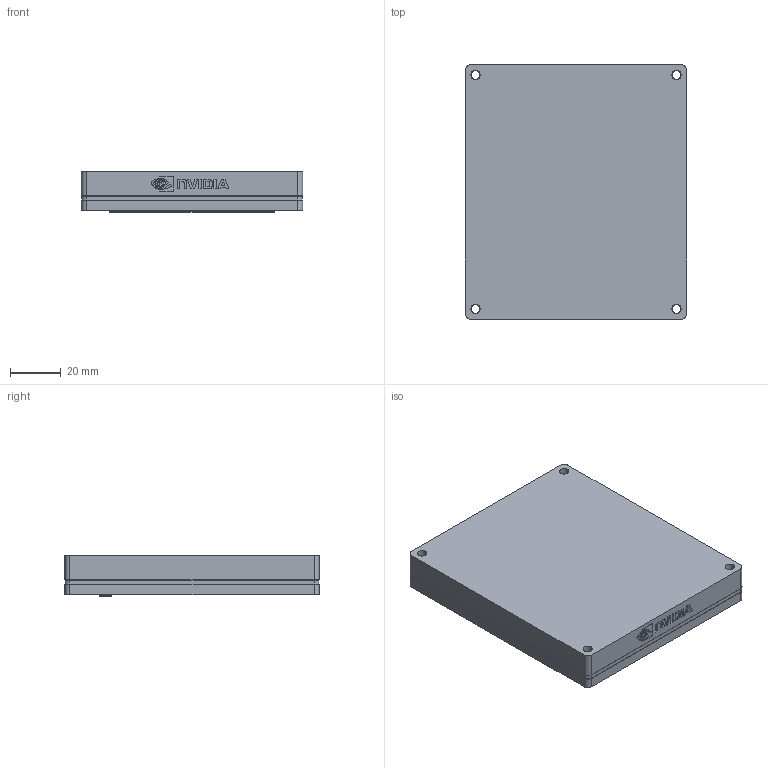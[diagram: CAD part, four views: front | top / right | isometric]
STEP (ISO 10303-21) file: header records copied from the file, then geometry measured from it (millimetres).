
FILE_DESCRIPTION((''),'2;1');
FILE_NAME('245-13701-0000-000_SIMPLER_ASM','2021-09-28T16:42:54',('ztan'),(''),'CREO PARAMETRIC BY PTC INC, 2020281','CREO PARAMETRIC BY PTC INC, 2020281','');
FILE_SCHEMA(('AUTOMOTIVE_DESIGN { 1 0 10303 214 1 1 1 1 }'));
Products named in the file (11): 080-1502-000_4_1; 600-13701-BASE-A00_ASM_1_ASM; 600-63701-BASE-A03_1; 600-63701-BASE-A03_ASM_1_ASM; 367-0600-000A_1; 155-0532-000_1; 155-1167-000_1; 320-XZXZ-000_RNM_1; 320-XZXZ-000-LIDLESS_ASM_1_ASM; 245-13701-0000-000_ASM_1_ASM; 245-13701-0000-000_SIMPLER_ASM
Assembly tree (16 placements, depth 4):
  245-13701-0000-000_SIMPLER_ASM
    245-13701-0000-000_ASM_1_ASM
      600-13701-BASE-A00_ASM_1_ASM
        080-1502-000_4_1
      600-63701-BASE-A03_ASM_1_ASM
        600-63701-BASE-A03_1
      367-0600-000A_1
      155-0532-000_1  x4
      155-1167-000_1  x4
      320-XZXZ-000-LIDLESS_ASM_1_ASM
        320-XZXZ-000_RNM_1
Bounding box: 87 x 100 x 15.99 mm (x, y, z)
Volume: 57072.4 mm3; surface area: 68242.2 mm2
Topology: 12 solids, 12 shells, 1673 faces, 4802 edges, 3103 vertices
Faces by surface type: plane 749, cylinder 628, bspline 128, cone 90, sphere 34, extrusion 31, torus 13
Entity records: 61207 total; most frequent: CARTESIAN_POINT 17237, ORIENTED_EDGE 6758, DIRECTION 6417, EDGE_CURVE 3379, PRESENTATION_STYLE_ASSIGNMENT 3326, STYLED_ITEM 3287, CURVE_STYLE 3282, VERTEX_POINT 2242
